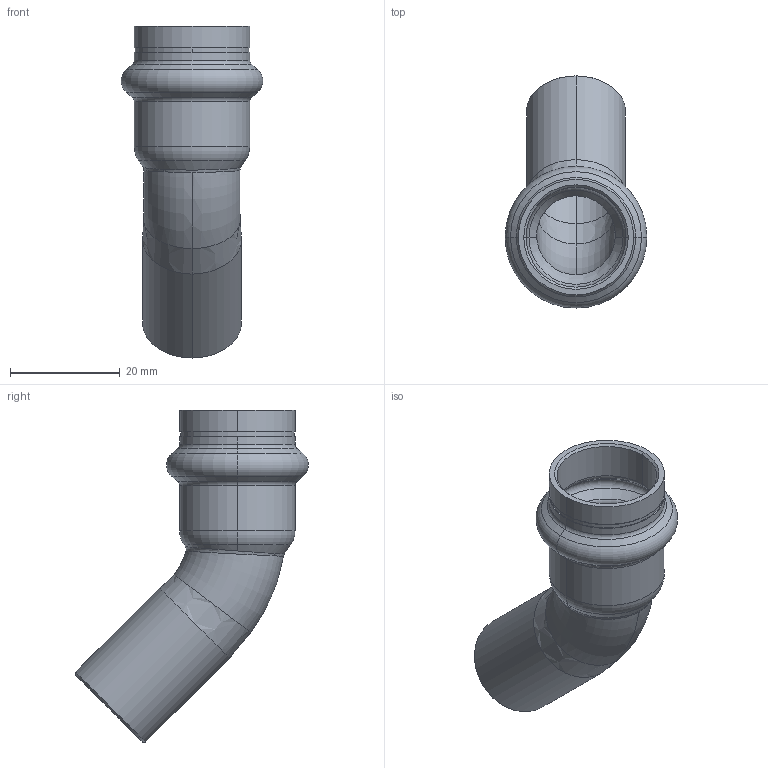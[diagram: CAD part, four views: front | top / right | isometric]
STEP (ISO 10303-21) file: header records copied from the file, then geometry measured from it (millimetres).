
FILE_DESCRIPTION (( 'STEP AP203' ), '1' );
FILE_NAME ('SP5040 Ø18.STEP', '2017-04-24T08:09:34', ( '' ), ( '' ), 'SwSTEP 2.0', 'SolidWorks 2016', '' );
FILE_SCHEMA (( 'CONFIG_CONTROL_DESIGN' ));
Length unit declared in the file: millimetre
Products named in the file (1): SP5040 ﾘ18
Bounding box: 25.8 x 42.32 x 60.42 mm (x, y, z)
Volume: 5531.2 mm3; surface area: 7526.9 mm2
Topology: 1 solids, 1 shells, 62 faces, 130 edges, 72 vertices
Faces by surface type: torus 20, cone 16, cylinder 16, bspline 6, plane 4
Entity records: 2482 total; most frequent: CARTESIAN_POINT 1078, DIRECTION 310, ORIENTED_EDGE 260, AXIS2_PLACEMENT_3D 139, EDGE_CURVE 130, CIRCLE 82, VERTEX_POINT 72, EDGE_LOOP 66
